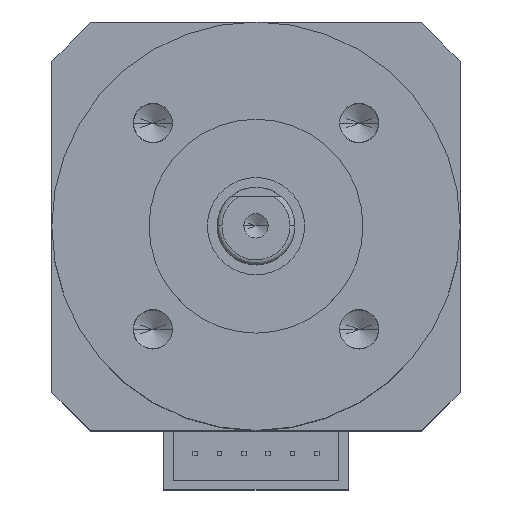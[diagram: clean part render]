
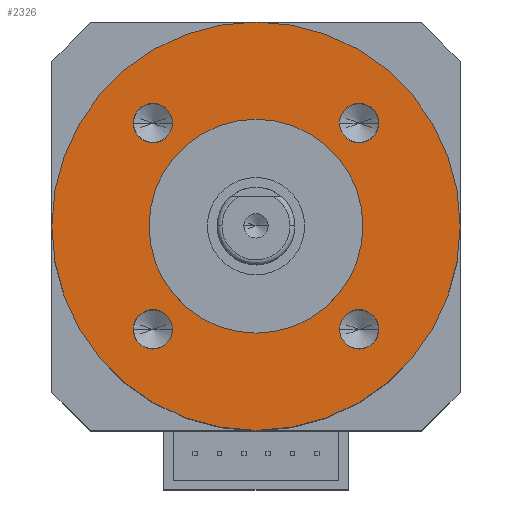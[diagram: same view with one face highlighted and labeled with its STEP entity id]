
A CAD part, top view. The second image highlights one B-rep face of the part: STEP entity #2326.
In plain terms, the highlighted planar face has unit normal (0, 0, 1).
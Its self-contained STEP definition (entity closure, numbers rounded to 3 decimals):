
#54 = EDGE_CURVE ( 'NONE', #2065, #1670, #2733, .T. ) ;
#75 = DIRECTION ( 'NONE',  ( -1., 0., 0. ) ) ;
#160 = DIRECTION ( 'NONE',  ( 0., 0., -1. ) ) ;
#199 = CARTESIAN_POINT ( 'NONE',  ( 0., 0., 0. ) ) ;
#226 = ORIENTED_EDGE ( 'NONE', *, *, #3669, .F. ) ;
#281 = CARTESIAN_POINT ( 'NONE',  ( 8.582, 10.607, 0. ) ) ;
#336 = VERTEX_POINT ( 'NONE', #1202 ) ;
#369 = EDGE_CURVE ( 'NONE', #1889, #2335, #817, .T. ) ;
#372 = CARTESIAN_POINT ( 'NONE',  ( 12.632, 10.607, 0. ) ) ;
#394 = CARTESIAN_POINT ( 'NONE',  ( 12.632, -10.607, 0. ) ) ;
#422 = CARTESIAN_POINT ( 'NONE',  ( -12.632, -10.607, 0. ) ) ;
#434 = ORIENTED_EDGE ( 'NONE', *, *, #2558, .F. ) ;
#501 = CARTESIAN_POINT ( 'NONE',  ( -8.582, 10.607, 0. ) ) ;
#532 = ORIENTED_EDGE ( 'NONE', *, *, #369, .F. ) ;
#556 = ORIENTED_EDGE ( 'NONE', *, *, #1184, .F. ) ;
#558 = DIRECTION ( 'NONE',  ( 1., 0., 0. ) ) ;
#639 = CIRCLE ( 'NONE', #2278, 2.025 ) ;
#664 = AXIS2_PLACEMENT_3D ( 'NONE', #3024, #160, #2742 ) ;
#681 = CARTESIAN_POINT ( 'NONE',  ( -10.607, 10.607, 0. ) ) ;
#791 = EDGE_CURVE ( 'NONE', #1268, #3011, #639, .T. ) ;
#799 = EDGE_CURVE ( 'NONE', #1670, #2065, #3660, .T. ) ;
#817 = CIRCLE ( 'NONE', #3651, 21. ) ;
#862 = EDGE_LOOP ( 'NONE', ( #2029, #2627 ) ) ;
#863 = CARTESIAN_POINT ( 'NONE',  ( 10.607, 10.607, 0. ) ) ;
#876 = DIRECTION ( 'NONE',  ( 0., 0., 1. ) ) ;
#898 = DIRECTION ( 'NONE',  ( 0., 0., 1. ) ) ;
#929 = DIRECTION ( 'NONE',  ( 0., 0., 1. ) ) ;
#941 = DIRECTION ( 'NONE',  ( 1., 0., 0. ) ) ;
#955 = ORIENTED_EDGE ( 'NONE', *, *, #3619, .F. ) ;
#1049 = ORIENTED_EDGE ( 'NONE', *, *, #2313, .F. ) ;
#1076 = DIRECTION ( 'NONE',  ( 1., 0., 0. ) ) ;
#1127 = EDGE_LOOP ( 'NONE', ( #2936, #1581 ) ) ;
#1140 = FACE_BOUND ( 'NONE', #862, .T. ) ;
#1166 = AXIS2_PLACEMENT_3D ( 'NONE', #199, #1629, #3061 ) ;
#1184 = EDGE_CURVE ( 'NONE', #336, #2488, #3491, .T. ) ;
#1202 = CARTESIAN_POINT ( 'NONE',  ( 11., 0., 0. ) ) ;
#1216 = AXIS2_PLACEMENT_3D ( 'NONE', #3370, #2766, #1905 ) ;
#1219 = EDGE_LOOP ( 'NONE', ( #2963, #556 ) ) ;
#1225 = CARTESIAN_POINT ( 'NONE',  ( 0., 0., 0. ) ) ;
#1240 = AXIS2_PLACEMENT_3D ( 'NONE', #681, #2659, #3498 ) ;
#1241 = DIRECTION ( 'NONE',  ( 0., 0., 1. ) ) ;
#1252 = CARTESIAN_POINT ( 'NONE',  ( 0., 0., 0. ) ) ;
#1268 = VERTEX_POINT ( 'NONE', #394 ) ;
#1332 = EDGE_CURVE ( 'NONE', #2488, #336, #2891, .T. ) ;
#1344 = EDGE_LOOP ( 'NONE', ( #1689, #1049 ) ) ;
#1392 = DIRECTION ( 'NONE',  ( 0., 0., 1. ) ) ;
#1502 = CIRCLE ( 'NONE', #1240, 2.025 ) ;
#1581 = ORIENTED_EDGE ( 'NONE', *, *, #54, .F. ) ;
#1621 = EDGE_LOOP ( 'NONE', ( #434, #955 ) ) ;
#1629 = DIRECTION ( 'NONE',  ( 0., 0., 1. ) ) ;
#1670 = VERTEX_POINT ( 'NONE', #372 ) ;
#1681 = EDGE_CURVE ( 'NONE', #3657, #2983, #1502, .T. ) ;
#1689 = ORIENTED_EDGE ( 'NONE', *, *, #791, .F. ) ;
#1748 = CARTESIAN_POINT ( 'NONE',  ( 10.607, -10.607, 0. ) ) ;
#1825 = CARTESIAN_POINT ( 'NONE',  ( 0., 0., 0. ) ) ;
#1855 = CIRCLE ( 'NONE', #3052, 2.025 ) ;
#1861 = FACE_BOUND ( 'NONE', #1344, .T. ) ;
#1871 = CARTESIAN_POINT ( 'NONE',  ( 21., 0., 0. ) ) ;
#1889 = VERTEX_POINT ( 'NONE', #3340 ) ;
#1905 = DIRECTION ( 'NONE',  ( 1., 0., 0. ) ) ;
#2029 = ORIENTED_EDGE ( 'NONE', *, *, #2580, .F. ) ;
#2034 = DIRECTION ( 'NONE',  ( 0., 0., -1. ) ) ;
#2059 = CARTESIAN_POINT ( 'NONE',  ( -10.607, -10.607, 0. ) ) ;
#2065 = VERTEX_POINT ( 'NONE', #281 ) ;
#2161 = CARTESIAN_POINT ( 'NONE',  ( -8.582, -10.607, 0. ) ) ;
#2166 = PLANE ( 'NONE',  #664 ) ;
#2197 = FACE_OUTER_BOUND ( 'NONE', #2343, .T. ) ;
#2205 = CARTESIAN_POINT ( 'NONE',  ( 10.607, 10.607, 0. ) ) ;
#2230 = AXIS2_PLACEMENT_3D ( 'NONE', #863, #876, #2858 ) ;
#2278 = AXIS2_PLACEMENT_3D ( 'NONE', #1748, #898, #2279 ) ;
#2279 = DIRECTION ( 'NONE',  ( 1., 0., 0. ) ) ;
#2313 = EDGE_CURVE ( 'NONE', #3011, #1268, #3385, .T. ) ;
#2326 = ADVANCED_FACE ( 'NONE', ( #1140, #3339, #1861, #2532, #2197, #3682 ), #2166, .F. ) ;
#2335 = VERTEX_POINT ( 'NONE', #1871 ) ;
#2343 = EDGE_LOOP ( 'NONE', ( #226, #532 ) ) ;
#2371 = AXIS2_PLACEMENT_3D ( 'NONE', #2205, #3374, #1076 ) ;
#2402 = DIRECTION ( 'NONE',  ( 0., 0., -1. ) ) ;
#2463 = DIRECTION ( 'NONE',  ( 1., 0., 0. ) ) ;
#2474 = DIRECTION ( 'NONE',  ( 0., 0., 1. ) ) ;
#2488 = VERTEX_POINT ( 'NONE', #2539 ) ;
#2507 = CARTESIAN_POINT ( 'NONE',  ( 8.582, -10.607, 0. ) ) ;
#2532 = FACE_BOUND ( 'NONE', #1621, .T. ) ;
#2539 = CARTESIAN_POINT ( 'NONE',  ( -11., 0., 0. ) ) ;
#2558 = EDGE_CURVE ( 'NONE', #2918, #3414, #2708, .T. ) ;
#2580 = EDGE_CURVE ( 'NONE', #2983, #3657, #1855, .T. ) ;
#2627 = ORIENTED_EDGE ( 'NONE', *, *, #1681, .F. ) ;
#2641 = AXIS2_PLACEMENT_3D ( 'NONE', #3277, #2474, #2463 ) ;
#2659 = DIRECTION ( 'NONE',  ( 0., 0., 1. ) ) ;
#2661 = DIRECTION ( 'NONE',  ( 1., 0., 0. ) ) ;
#2708 = CIRCLE ( 'NONE', #1216, 2.025 ) ;
#2733 = CIRCLE ( 'NONE', #2371, 2.025 ) ;
#2742 = DIRECTION ( 'NONE',  ( -1., 0., 0. ) ) ;
#2766 = DIRECTION ( 'NONE',  ( 0., 0., 1. ) ) ;
#2858 = DIRECTION ( 'NONE',  ( 1., 0., 0. ) ) ;
#2881 = CIRCLE ( 'NONE', #3467, 21. ) ;
#2891 = CIRCLE ( 'NONE', #3030, 11. ) ;
#2918 = VERTEX_POINT ( 'NONE', #2161 ) ;
#2936 = ORIENTED_EDGE ( 'NONE', *, *, #799, .F. ) ;
#2963 = ORIENTED_EDGE ( 'NONE', *, *, #1332, .F. ) ;
#2983 = VERTEX_POINT ( 'NONE', #501 ) ;
#3011 = VERTEX_POINT ( 'NONE', #2507 ) ;
#3024 = CARTESIAN_POINT ( 'NONE',  ( -21., -21., 0. ) ) ;
#3030 = AXIS2_PLACEMENT_3D ( 'NONE', #1825, #1241, #75 ) ;
#3052 = AXIS2_PLACEMENT_3D ( 'NONE', #3139, #1392, #558 ) ;
#3061 = DIRECTION ( 'NONE',  ( -1., 0., 0. ) ) ;
#3139 = CARTESIAN_POINT ( 'NONE',  ( -10.607, 10.607, 0. ) ) ;
#3225 = CARTESIAN_POINT ( 'NONE',  ( -12.632, 10.607, 0. ) ) ;
#3238 = CIRCLE ( 'NONE', #3536, 2.025 ) ;
#3277 = CARTESIAN_POINT ( 'NONE',  ( 10.607, -10.607, 0. ) ) ;
#3339 = FACE_BOUND ( 'NONE', #1127, .T. ) ;
#3340 = CARTESIAN_POINT ( 'NONE',  ( -21., 0., 0. ) ) ;
#3370 = CARTESIAN_POINT ( 'NONE',  ( -10.607, -10.607, 0. ) ) ;
#3374 = DIRECTION ( 'NONE',  ( 0., 0., 1. ) ) ;
#3385 = CIRCLE ( 'NONE', #2641, 2.025 ) ;
#3414 = VERTEX_POINT ( 'NONE', #422 ) ;
#3467 = AXIS2_PLACEMENT_3D ( 'NONE', #1225, #2034, #941 ) ;
#3491 = CIRCLE ( 'NONE', #1166, 11. ) ;
#3498 = DIRECTION ( 'NONE',  ( 1., 0., 0. ) ) ;
#3536 = AXIS2_PLACEMENT_3D ( 'NONE', #2059, #929, #2661 ) ;
#3563 = DIRECTION ( 'NONE',  ( 1., 0., 0. ) ) ;
#3619 = EDGE_CURVE ( 'NONE', #3414, #2918, #3238, .T. ) ;
#3651 = AXIS2_PLACEMENT_3D ( 'NONE', #1252, #2402, #3563 ) ;
#3657 = VERTEX_POINT ( 'NONE', #3225 ) ;
#3660 = CIRCLE ( 'NONE', #2230, 2.025 ) ;
#3669 = EDGE_CURVE ( 'NONE', #2335, #1889, #2881, .T. ) ;
#3682 = FACE_BOUND ( 'NONE', #1219, .T. ) ;
